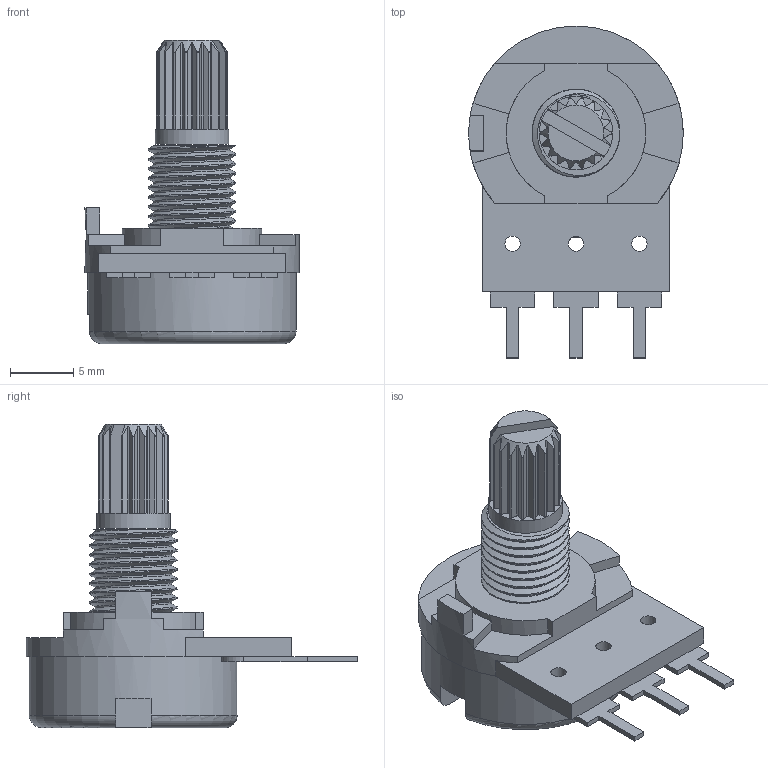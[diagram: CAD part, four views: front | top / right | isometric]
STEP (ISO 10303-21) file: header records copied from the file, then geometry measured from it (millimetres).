
FILE_DESCRIPTION(/* description */ (''),/* implementation_level */ '2;1');
FILE_NAME(/* name */ 'WH148 PH1 Single-Joint Potentiometer v2.step',/* time_stamp */ '2026-05-27T12:48:06-07:00',/* author */ (''),/* organization */ (''),/* preprocessor_version */ 'ST-DEVELOPER v20.1',/* originating_system */ 'Autodesk Translation Framework v15.8.0.0',/* authorisation */ '');
FILE_SCHEMA (('AUTOMOTIVE_DESIGN { 1 0 10303 214 3 1 1 }'));
Length unit declared in the file: millimetre
Products named in the file (3): WH148 PH1 Single-Joint Potentiometer; Base; Knob
Assembly tree (2 placements, depth 2):
  WH148 PH1 Single-Joint Potentiometer
    Base
    Knob
Bounding box: 16.9 x 26.15 x 23.9 mm (x, y, z)
Volume: 2250.6 mm3; surface area: 1703.5 mm2
Topology: 2 solids, 2 shells, 170 faces, 495 edges, 331 vertices
Faces by surface type: plane 99, cylinder 66, bspline 2, cone 2, torus 1
Full cylindrical faces by diameter (mm): 1.2 x3, 5.8 x1, 6.048 x3, 6.908 x5, 16.4 x1
Entity records: 7457 total; most frequent: CARTESIAN_POINT 3039, ORIENTED_EDGE 990, DIRECTION 819, EDGE_CURVE 495, VERTEX_POINT 331, LINE 283, VECTOR 283, AXIS2_PLACEMENT_3D 268
